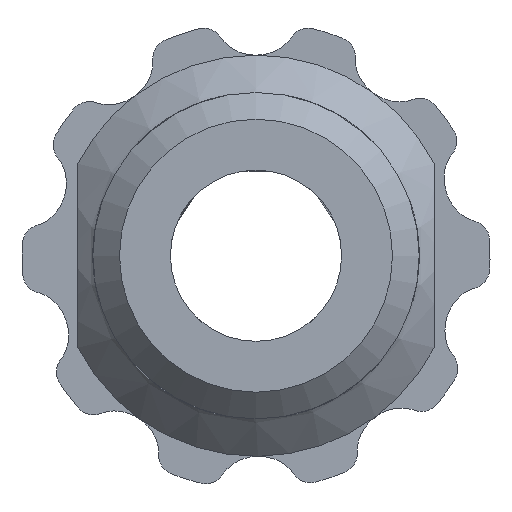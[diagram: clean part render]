
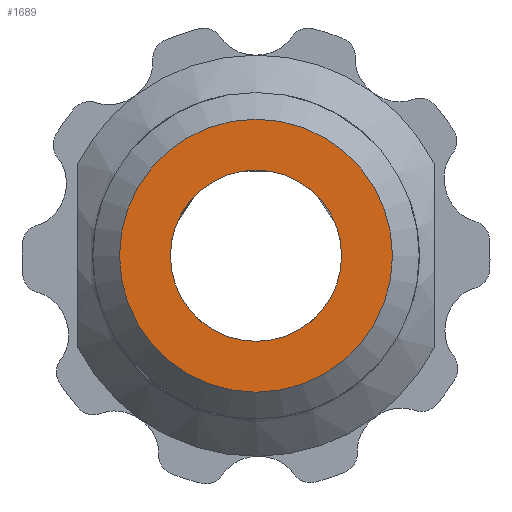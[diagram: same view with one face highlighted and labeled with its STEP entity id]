
A CAD part, front view. The second image highlights one B-rep face of the part: STEP entity #1689.
In plain terms, the highlighted planar face has unit normal (0, -1, 0).
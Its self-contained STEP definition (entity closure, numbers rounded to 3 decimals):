
#1662=CARTESIAN_POINT('',(0.,-102.98,0.));
#1663=DIRECTION('',(0.,-1.,0.));
#1664=DIRECTION('',(1.,0.,0.));
#1665=AXIS2_PLACEMENT_3D('',#1662,#1663,#1664);
#1666=PLANE('',#1665);
#1667=CARTESIAN_POINT('',(-0.,-102.98,15.207));
#1668=VERTEX_POINT('',#1667);
#1669=CARTESIAN_POINT('',(0.,-102.98,5.));
#1670=DIRECTION('',(-0.,-1.,-0.));
#1671=DIRECTION('',(0.,-0.,1.));
#1672=AXIS2_PLACEMENT_3D('',#1669,#1670,#1671);
#1673=CIRCLE('',#1672,10.207);
#1674=EDGE_CURVE('',#1668,#1668,#1673,.T.);
#1675=ORIENTED_EDGE('',*,*,#1674,.T.);
#1676=EDGE_LOOP('',(#1675));
#1677=FACE_BOUND('',#1676,.T.);
#1678=CARTESIAN_POINT('',(-0.,-102.98,-1.403));
#1679=VERTEX_POINT('',#1678);
#1680=CARTESIAN_POINT('',(0.,-102.98,5.));
#1681=DIRECTION('',(-0.,1.,-0.));
#1682=DIRECTION('',(0.,0.,-1.));
#1683=AXIS2_PLACEMENT_3D('',#1680,#1681,#1682);
#1684=CIRCLE('',#1683,6.403);
#1685=EDGE_CURVE('',#1679,#1679,#1684,.T.);
#1686=ORIENTED_EDGE('',*,*,#1685,.T.);
#1687=EDGE_LOOP('',(#1686));
#1688=FACE_BOUND('',#1687,.T.);
#1689=ADVANCED_FACE('',(#1677,#1688),#1666,.T.);
